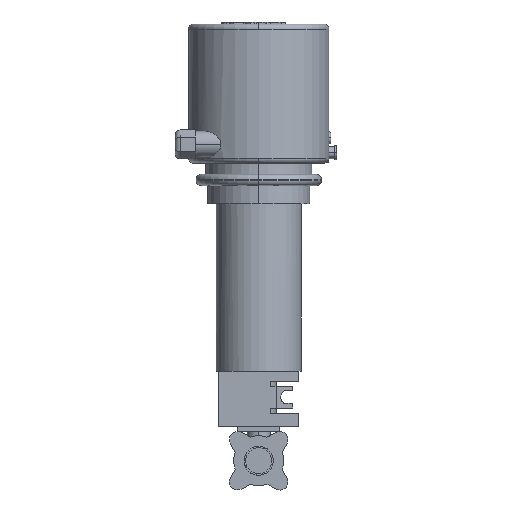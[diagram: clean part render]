
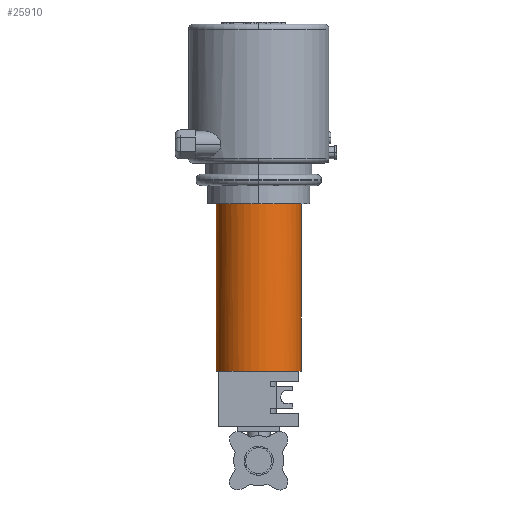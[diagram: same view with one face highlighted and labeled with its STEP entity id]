
A CAD part, left-side view. The second image highlights one B-rep face of the part: STEP entity #25910.
In plain terms, the highlighted cylindrical face has radius 42.5 mm (diameter 85 mm), a partial arc.
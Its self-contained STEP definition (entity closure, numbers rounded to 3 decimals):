
#14500=CARTESIAN_POINT('',(-2.639,-35.002,
-91.57));
#14510=VERTEX_POINT('',#14500);
#16630=CARTESIAN_POINT('',(-2.639,-91.57,
-35.002));
#16640=VERTEX_POINT('',#16630);
#23560=CARTESIAN_POINT('',(-17.,-63.286,
-63.286));
#23570=DIRECTION('',(0.,0.707,
0.707));
#23580=DIRECTION('',(0.,-0.707,
0.707));
#23590=AXIS2_PLACEMENT_3D('',#23560,#23570,#23580);
#23600=CIRCLE('',#23590,42.5);
#23610=CARTESIAN_POINT('',(23.,-53.131,
-73.441));
#23620=VERTEX_POINT('',#23610);
#23630=EDGE_CURVE('',#23620,#14510,#23600,.T.);
#23880=CARTESIAN_POINT('',(23.,-73.441,
-53.131));
#23890=VERTEX_POINT('',#23880);
#25300=EDGE_CURVE('',#16640,#23890,#23600,.T.);
#25490=CARTESIAN_POINT('',(-17.,-122.329,
-122.329));
#25500=DIRECTION('',(0.,0.707,
0.707));
#25510=DIRECTION('',(0.,-0.707,
0.707));
#25520=AXIS2_PLACEMENT_3D('',#25490,#25500,#25510);
#25530=CYLINDRICAL_SURFACE('',#25520,42.5);
#25540=ORIENTED_EDGE('',*,*,#25300,.F.);
#25550=EDGE_CURVE('',#23890,#23620,#23600,.T.);
#25560=ORIENTED_EDGE('',*,*,#25550,.F.);
#25570=ORIENTED_EDGE('',*,*,#23630,.F.);
#25580=CARTESIAN_POINT('',(-17.,-33.234,
-93.338));
#25590=VERTEX_POINT('',#25580);
#25600=EDGE_CURVE('',#14510,#25590,#23600,.T.);
#25610=ORIENTED_EDGE('',*,*,#25600,.F.);
#25620=CARTESIAN_POINT('',(-17.,-92.277,
-152.382));
#25630=DIRECTION('',(0.,0.707,
0.707));
#25640=VECTOR('',#25630,1.);
#25650=LINE('',#25620,#25640);
#25660=CARTESIAN_POINT('',(-17.,-151.321,
-211.425));
#25670=VERTEX_POINT('',#25660);
#25680=EDGE_CURVE('',#25670,#25590,#25650,.T.);
#25690=ORIENTED_EDGE('',*,*,#25680,.T.);
#25700=CARTESIAN_POINT('',(-17.,-181.373,
-181.373));
#25710=DIRECTION('',(0.,-0.707,
-0.707));
#25720=DIRECTION('',(0.,-0.707,
0.707));
#25730=AXIS2_PLACEMENT_3D('',#25700,#25710,#25720);
#25740=CIRCLE('',#25730,42.5);
#25750=CARTESIAN_POINT('',(-17.,-211.425,
-151.321));
#25760=VERTEX_POINT('',#25750);
#25770=EDGE_CURVE('',#25670,#25760,#25740,.T.);
#25780=ORIENTED_EDGE('',*,*,#25770,.F.);
#25790=CARTESIAN_POINT('',(-17.,-152.382,
-92.277));
#25800=DIRECTION('',(0.,0.707,
0.707));
#25810=VECTOR('',#25800,1.);
#25820=LINE('',#25790,#25810);
#25830=CARTESIAN_POINT('',(-17.,-93.338,
-33.234));
#25840=VERTEX_POINT('',#25830);
#25850=EDGE_CURVE('',#25760,#25840,#25820,.T.);
#25860=ORIENTED_EDGE('',*,*,#25850,.F.);
#25870=EDGE_CURVE('',#25840,#16640,#23600,.T.);
#25880=ORIENTED_EDGE('',*,*,#25870,.F.);
#25890=EDGE_LOOP('',(#25880,#25860,#25780,#25690,#25610,#25570,#25560,
#25540));
#25900=FACE_OUTER_BOUND('',#25890,.T.);
#25910=ADVANCED_FACE('',(#25900),#25530,.T.);
